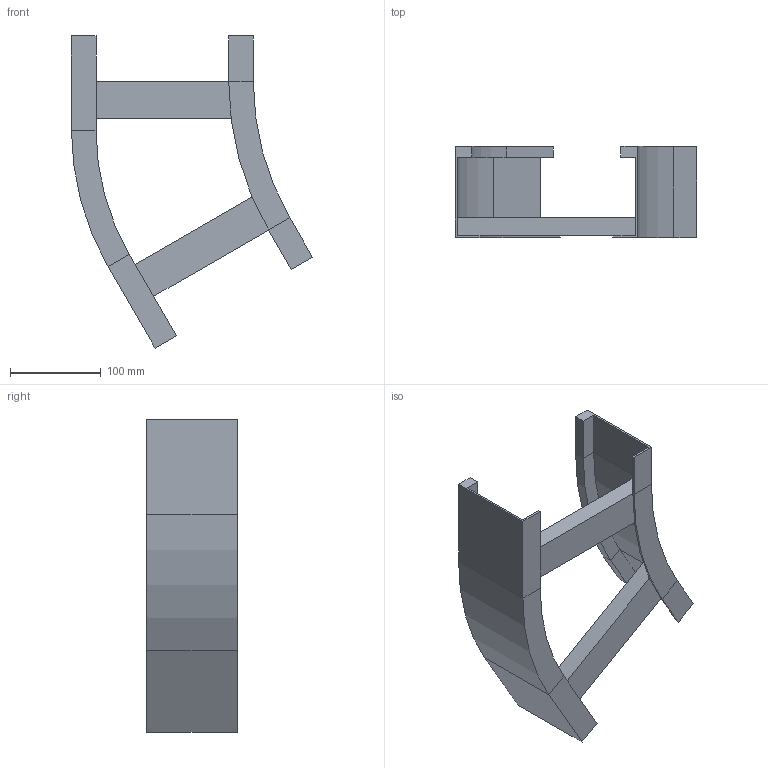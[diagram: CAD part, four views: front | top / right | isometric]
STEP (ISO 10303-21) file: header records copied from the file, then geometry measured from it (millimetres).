
FILE_DESCRIPTION (( 'STEP AP214' ), '1' );
FILE_NAME ('B2_12B3D200.step', '2025-02-21T15:07:40', ( '' ), ( '' ), 'SwSTEP 2.0', 'SolidWorks 2023', '' );
FILE_SCHEMA (( 'AUTOMOTIVE_DESIGN' ));
Length unit declared in the file: millimetre
Products named in the file (4): TRAVERSINO_200; B2_LONGH.INTERNO 30°_H100_R300; B2_LONGH.ESTERNO 30°_H100_R300+200; B2_12B3D200
Assembly tree (4 placements, depth 2):
  B2_12B3D200
    B2_LONGH.INTERNO 30°_H100_R300
    B2_LONGH.ESTERNO 30°_H100_R300+200
    TRAVERSINO_200  x2
Bounding box: 265.19 x 100 x 343.3 mm (x, y, z)
Volume: 592151.8 mm3; surface area: 230142.9 mm2
Topology: 4 solids, 4 shells, 64 faces, 136 edges, 80 vertices
Faces by surface type: plane 56, cylinder 8
Entity records: 1637 total; most frequent: DIRECTION 270, CARTESIAN_POINT 261, ORIENTED_EDGE 248, EDGE_CURVE 124, VECTOR 108, LINE 108, AXIS2_PLACEMENT_3D 81, VERTEX_POINT 72
